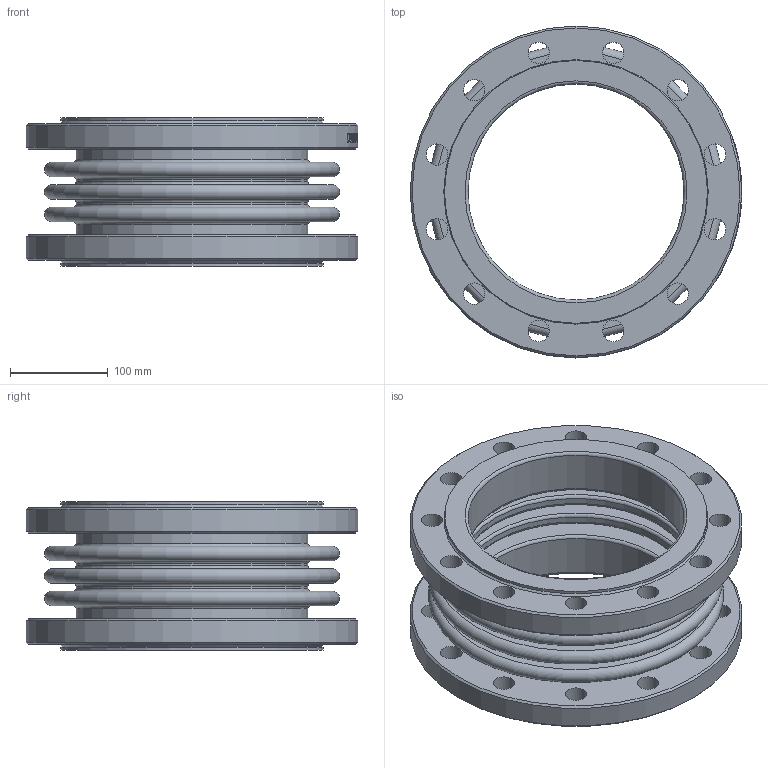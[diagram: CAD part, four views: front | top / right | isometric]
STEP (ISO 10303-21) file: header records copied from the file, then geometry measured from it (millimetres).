
FILE_DESCRIPTION(/* description */ ('D140-02144','CAx-IF Rec.Pracs.---Representation and Presentation of Product Manufacturing Information (PMI)---4.0---2014-10-13'),/* implementation_level */ '2;1');
FILE_NAME(/* name */ '',/* time_stamp */ '2026-04-16T22:16:35+03:00',/* author */ ('DN.RU'),/* organization */ ('DN.RU'),/* preprocessor_version */ 'ST-DEVELOPER v20',/* originating_system */ 'Autodesk Inventor 2025',/* authorisation */ '');
FILE_SCHEMA (('AP242_MANAGED_MODEL_BASED_3D_ENGINEERING_MIM_LF { 1 0 10303 442 1 1 4 }'));
Length unit declared in the file: millimetre
Products named in the file (1): CB-3232P-F
Bounding box: 340 x 340 x 152 mm (x, y, z)
Volume: 3172182.4 mm3; surface area: 814713 mm2
Topology: 1 solids, 1 shells, 290 faces, 741 edges, 494 vertices
Faces by surface type: plane 111, bspline 94, cylinder 59, torus 20, cone 6
Full cylindrical faces by diameter (mm): 22 x24, 221.5 x2, 233.5 x2, 237.5 x4, 245.5 x2, 269.5 x2, 340 x2
Entity records: 12440 total; most frequent: CARTESIAN_POINT 4987, ORIENTED_EDGE 1482, DIRECTION 1277, EDGE_CURVE 741, VERTEX_POINT 494, AXIS2_PLACEMENT_3D 488, EDGE_LOOP 381, STYLED_ITEM 372
